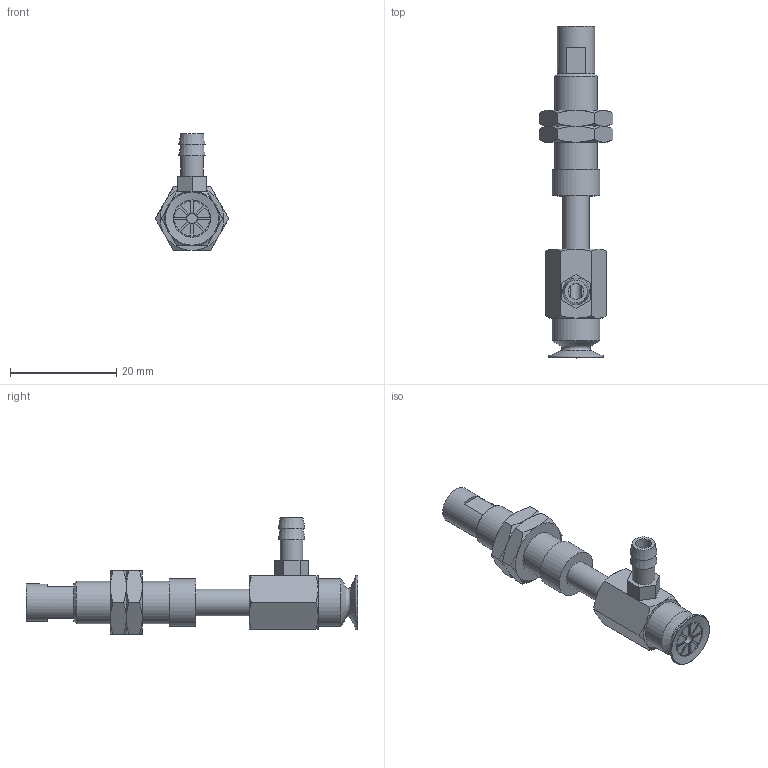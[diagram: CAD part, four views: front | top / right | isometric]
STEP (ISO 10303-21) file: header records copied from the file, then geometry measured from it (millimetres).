
FILE_DESCRIPTION(('STEP AP203'),'1');
FILE_NAME('-T.stp','2025-02-11T07:25:03',(' '),(' '),'Spatial InterOp 3D',' ',' ');
FILE_SCHEMA(('CONFIG_CONTROL_DESIGN'));
Length unit declared in the file: millimetre
Products named in the file (7): BNABPAYS-10B-10-※-T; NAPAYS-10A-10--M; NAPAYS-10A-10--F; Nut-10A-S; CONNECTOR-10A-10-PA; BPAG-10B-※_3D; T
Assembly tree (7 placements, depth 2):
  BNABPAYS-10B-10-※-T
    NAPAYS-10A-10--M
    NAPAYS-10A-10--F
    Nut-10A-S  x2
    CONNECTOR-10A-10-PA
    BPAG-10B-※_3D
    T
Bounding box: 13.86 x 62.5 x 22 mm (x, y, z)
Volume: 3698.4 mm3; surface area: 4645 mm2
Topology: 7 solids, 7 shells, 181 faces, 405 edges, 251 vertices
Faces by surface type: plane 87, cone 54, cylinder 29, torus 11
Full cylindrical faces by diameter (mm): 2 x2, 3 x1, 4 x2, 4.134 x2, 4.3 x1, 5 x4, 6 x2, 7 x2, 7.188 x2, 8 x1, 9 x2
Entity records: 4708 total; most frequent: CARTESIAN_POINT 1032, DIRECTION 708, ORIENTED_EDGE 606, EDGE_CURVE 303, AXIS2_PLACEMENT_3D 293, EDGE_LOOP 228, VERTEX_POINT 215, FACE_OUTER_BOUND 189
